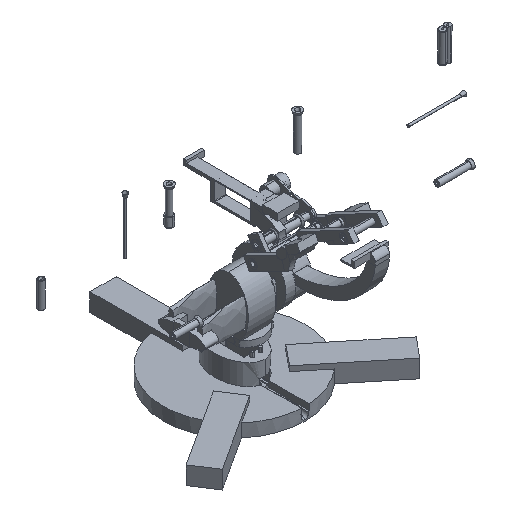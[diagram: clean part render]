
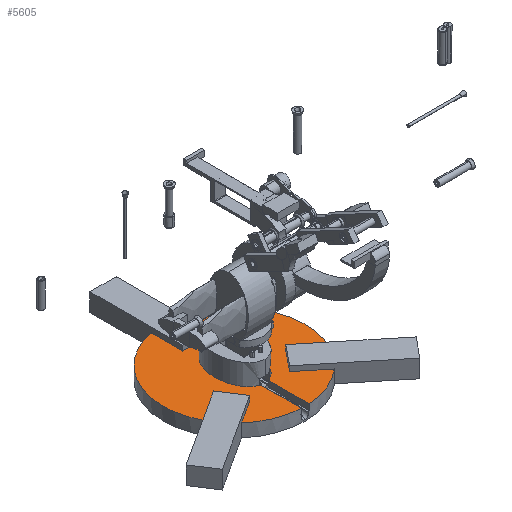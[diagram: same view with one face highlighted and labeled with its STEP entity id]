
A CAD part, isometric view. The second image highlights one B-rep face of the part: STEP entity #5605.
In plain terms, the highlighted planar face has unit normal (0, 0, 1).
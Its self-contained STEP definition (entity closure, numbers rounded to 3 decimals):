
#2299=TRIMMED_CURVE($,#3345,(#50609),(#50610),.T.,.CARTESIAN.);
#2302=TRIMMED_CURVE($,#3348,(#50680),(#50681),.T.,.CARTESIAN.);
#3345=CIRCLE('',#31971,80.863);
#3348=CIRCLE('',#31974,80.863);
#5605=ADVANCED_FACE('',(#7384),#29823,.T.);
#7384=FACE_OUTER_BOUND('',#9261,.T.);
#9261=EDGE_LOOP('',(#15034,#15035,#15036,#15037,#15038,#15039));
#15034=ORIENTED_EDGE('',*,*,#21305,.T.);
#15035=ORIENTED_EDGE('',*,*,#21314,.T.);
#15036=ORIENTED_EDGE('',*,*,#21297,.T.);
#15037=ORIENTED_EDGE('',*,*,#21306,.T.);
#15038=ORIENTED_EDGE('',*,*,#21313,.T.);
#15039=ORIENTED_EDGE('',*,*,#21294,.T.);
#21294=EDGE_CURVE('',#28133,#28139,#2299,.T.);
#21297=EDGE_CURVE('',#28135,#28145,#26017,.T.);
#21305=EDGE_CURVE('',#28139,#28144,#24580,.T.);
#21306=EDGE_CURVE('',#28145,#28140,#24581,.T.);
#21313=EDGE_CURVE('',#28140,#28133,#2302,.T.);
#21314=EDGE_CURVE('',#28144,#28135,#26021,.T.);
#24580=B_SPLINE_CURVE_WITH_KNOTS('',1,(#50643,#50644),.UNSPECIFIED.,.F.,
 .F.,(2,2),(-80.752,-34.56),.UNSPECIFIED.);
#24581=B_SPLINE_CURVE_WITH_KNOTS('',1,(#50645,#50646),.UNSPECIFIED.,.F.,
 .F.,(2,2),(34.423,80.722),.UNSPECIFIED.);
#26017=(
BOUNDED_CURVE()
B_SPLINE_CURVE(2,(#50618,#50619,#50620,#50621,#50622),.UNSPECIFIED.,.F.,
 .F.)
B_SPLINE_CURVE_WITH_KNOTS((3,2,3),(-214.246,-160.685,
-114.667),.UNSPECIFIED.)
CURVE()
GEOMETRIC_REPRESENTATION_ITEM()
RATIONAL_B_SPLINE_CURVE((1.,0.707,1.,0.776,1.))
REPRESENTATION_ITEM('')
);
#26021=(
BOUNDED_CURVE()
B_SPLINE_CURVE(2,(#50682,#50683,#50684,#50685,#50686),.UNSPECIFIED.,.F.,
 .F.)
B_SPLINE_CURVE_WITH_KNOTS((3,2,3),(-100.308,-53.562,
0.),.UNSPECIFIED.)
CURVE()
GEOMETRIC_REPRESENTATION_ITEM()
RATIONAL_B_SPLINE_CURVE((1.,0.77,1.,0.707,1.))
REPRESENTATION_ITEM('')
);
#28133=VERTEX_POINT('',#50582);
#28135=VERTEX_POINT('',#50584);
#28139=VERTEX_POINT('',#50588);
#28140=VERTEX_POINT('',#50589);
#28144=VERTEX_POINT('',#50593);
#28145=VERTEX_POINT('',#50594);
#29823=PLANE('',#31967);
#31967=AXIS2_PLACEMENT_3D('',#50578,#34759,$);
#31971=AXIS2_PLACEMENT_3D($,#50608,#34764,#34765);
#31974=AXIS2_PLACEMENT_3D($,#50679,#34770,#34771);
#34759=DIRECTION('',(0.,0.,1.));
#34764=DIRECTION('',(0.,0.,1.));
#34765=DIRECTION('',(0.,1.,0.));
#34770=DIRECTION('',(0.,0.,1.));
#34771=DIRECTION('',(0.059,-0.998,0.));
#50578=CARTESIAN_POINT('',(5.26,-107.125,-79.562));
#50582=CARTESIAN_POINT('',(-95.818,74.816,-79.562));
#50584=CARTESIAN_POINT('',(-95.781,26.999,-79.562));
#50588=CARTESIAN_POINT('',(-100.047,-86.798,-79.562));
#50589=CARTESIAN_POINT('',(-91.047,-86.768,-79.562));
#50593=CARTESIAN_POINT('',(-100.047,-40.607,-79.562));
#50594=CARTESIAN_POINT('',(-91.047,-40.469,-79.562));
#50608=CARTESIAN_POINT('',(-95.818,-6.047,-79.562));
#50609=CARTESIAN_POINT('',(-95.818,74.816,-79.562));
#50610=CARTESIAN_POINT('',(-100.047,-86.798,-79.562));
#50618=CARTESIAN_POINT('',(-95.781,26.999,-79.562));
#50619=CARTESIAN_POINT('',(-72.752,26.999,-79.562));
#50620=CARTESIAN_POINT('',(-72.752,-7.099,-79.562));
#50621=CARTESIAN_POINT('',(-72.752,-34.78,-79.562));
#50622=CARTESIAN_POINT('',(-91.047,-40.469,-79.562));
#50643=CARTESIAN_POINT('',(-100.047,-86.798,-79.562));
#50644=CARTESIAN_POINT('',(-100.047,-40.607,-79.562));
#50645=CARTESIAN_POINT('',(-91.047,-40.469,-79.562));
#50646=CARTESIAN_POINT('',(-91.047,-86.768,-79.562));
#50679=CARTESIAN_POINT('',(-95.818,-6.047,-79.562));
#50680=CARTESIAN_POINT('',(-91.047,-86.768,-79.562));
#50681=CARTESIAN_POINT('',(-95.818,74.816,-79.562));
#50682=CARTESIAN_POINT('',(-100.047,-40.607,-79.562));
#50683=CARTESIAN_POINT('',(-118.809,-35.369,-79.562));
#50684=CARTESIAN_POINT('',(-118.809,-7.099,-79.562));
#50685=CARTESIAN_POINT('',(-118.809,26.999,-79.562));
#50686=CARTESIAN_POINT('',(-95.781,26.999,-79.562));
